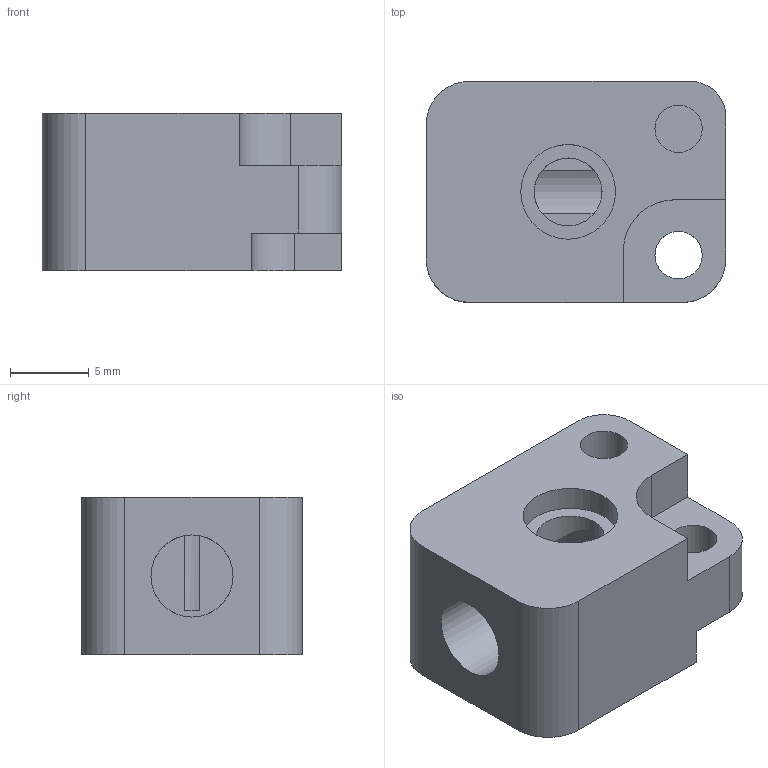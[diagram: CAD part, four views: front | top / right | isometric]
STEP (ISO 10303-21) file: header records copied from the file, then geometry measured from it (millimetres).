
FILE_DESCRIPTION(/* description */ (''),/* implementation_level */ '2;1');
FILE_NAME(/* name */ '11_LED_Housing.step',/* time_stamp */ '2026-09-20T10:25:49-07:00',/* author */ (''),/* organization */ (''),/* preprocessor_version */ 'ST-DEVELOPER v20.2',/* originating_system */ 'Autodesk Translation Framework v15.15.0.0',/* authorisation */ '');
FILE_SCHEMA (('AUTOMOTIVE_DESIGN { 1 0 10303 214 3 1 1 }'));
Length unit declared in the file: millimetre
Products named in the file (1): 2026-09-20-10-25-49-096
Bounding box: 19 x 14 x 10 mm (x, y, z)
Volume: 2047.2 mm3; surface area: 1399 mm2
Topology: 1 solids, 1 shells, 31 faces, 75 edges, 50 vertices
Faces by surface type: plane 18, cylinder 13
Full cylindrical faces by diameter (mm): 3 x2, 4.3 x1, 5.2 x1, 6 x1
Entity records: 1025 total; most frequent: CARTESIAN_POINT 235, DIRECTION 160, ORIENTED_EDGE 150, EDGE_CURVE 75, AXIS2_PLACEMENT_3D 57, VERTEX_POINT 50, LINE 46, VECTOR 46
